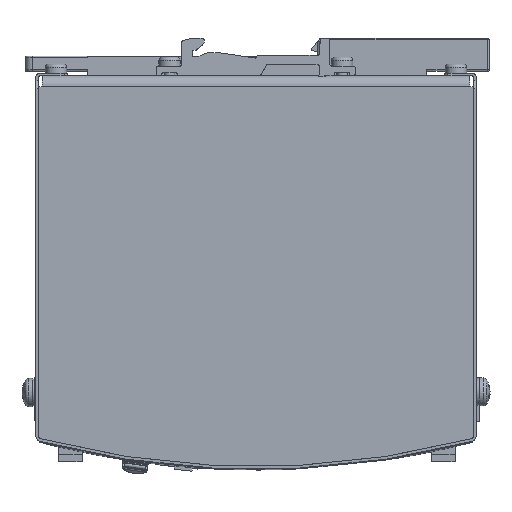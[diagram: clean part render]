
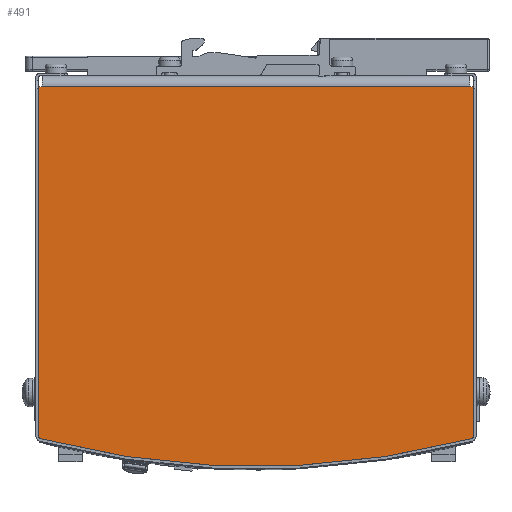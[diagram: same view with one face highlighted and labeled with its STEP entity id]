
A CAD part, left-side view. The second image highlights one B-rep face of the part: STEP entity #491.
In plain terms, the highlighted planar face has unit normal (-1, 0, 0) as drawn and (0, 1, 0) by its records, which use the part's own axes.
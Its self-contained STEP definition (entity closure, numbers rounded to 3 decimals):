
#112=CARTESIAN_POINT('',(102.177,31.0,60.777));
#113=VERTEX_POINT('',#112);
#114=CARTESIAN_POINT('',(101.693,31.0,61.15));
#115=VERTEX_POINT('',#114);
#116=CARTESIAN_POINT('',(101.693,31.0,60.65));
#117=DIRECTION('',(0.0,-1.0,0.0));
#118=DIRECTION('',(0.611,0.0,0.792));
#119=AXIS2_PLACEMENT_3D('',#116,#117,#118);
#120=CIRCLE('',#119,0.5);
#121=EDGE_CURVE('',#113,#115,#120,.T.);
#164=CARTESIAN_POINT('',(102.177,31.0,-60.777));
#165=VERTEX_POINT('',#164);
#172=CARTESIAN_POINT('',(-130.,31.0,0.));
#173=DIRECTION('',(0.0,1.0,0.0));
#174=DIRECTION('',(-0.967,0.0,-0.255));
#175=AXIS2_PLACEMENT_3D('',#172,#173,#174);
#176=CIRCLE('',#175,240.);
#177=EDGE_CURVE('',#113,#165,#176,.T.);
#408=CARTESIAN_POINT('',(101.693,31.0,-61.15));
#409=VERTEX_POINT('',#408);
#416=CARTESIAN_POINT('',(101.693,31.0,-60.65));
#417=DIRECTION('',(0.0,-1.,0.0));
#418=DIRECTION('',(0.611,0.0,-0.792));
#419=AXIS2_PLACEMENT_3D('',#416,#417,#418);
#420=CIRCLE('',#419,0.5);
#421=EDGE_CURVE('',#409,#165,#420,.T.);
#427=CARTESIAN_POINT('',(0.,31.0,-61.15));
#428=DIRECTION('',(0.0,1.0,0.0));
#429=DIRECTION('',(0.0,0.0,1.0));
#430=AXIS2_PLACEMENT_3D('',#427,#428,#429);
#431=PLANE('',#430);
#432=ORIENTED_EDGE('',*,*,#121,.F.);
#433=ORIENTED_EDGE('',*,*,#177,.T.);
#434=ORIENTED_EDGE('',*,*,#421,.F.);
#435=CARTESIAN_POINT('',(3.1,31.,-61.15));
#436=VERTEX_POINT('',#435);
#437=CARTESIAN_POINT('',(3.1,31.0,-61.15));
#438=DIRECTION('',(1.0,0.0,0.0));
#439=VECTOR('',#438,98.593);
#440=LINE('',#437,#439);
#441=EDGE_CURVE('',#436,#409,#440,.T.);
#442=ORIENTED_EDGE('',*,*,#441,.F.);
#443=CARTESIAN_POINT('',(3.1,31.,-60.15));
#444=VERTEX_POINT('',#443);
#445=CARTESIAN_POINT('',(3.1,31.0,-61.15));
#446=DIRECTION('',(0.0,0.0,1.0));
#447=VECTOR('',#446,1.0);
#448=LINE('',#445,#447);
#449=EDGE_CURVE('',#436,#444,#448,.T.);
#450=ORIENTED_EDGE('',*,*,#449,.T.);
#451=CARTESIAN_POINT('',(3.,31.0,-60.15));
#452=VERTEX_POINT('',#451);
#453=CARTESIAN_POINT('',(3.1,31.0,-60.15));
#454=DIRECTION('',(-1.0,0.0,0.0));
#455=VECTOR('',#454,0.1);
#456=LINE('',#453,#455);
#457=EDGE_CURVE('',#444,#452,#456,.T.);
#458=ORIENTED_EDGE('',*,*,#457,.T.);
#459=CARTESIAN_POINT('',(3.,31.,60.15));
#460=VERTEX_POINT('',#459);
#461=CARTESIAN_POINT('',(3.,31.0,-60.15));
#462=DIRECTION('',(0.0,0.0,1.0));
#463=VECTOR('',#462,120.3);
#464=LINE('',#461,#463);
#465=EDGE_CURVE('',#452,#460,#464,.T.);
#466=ORIENTED_EDGE('',*,*,#465,.T.);
#467=CARTESIAN_POINT('',(3.1,31.,60.15));
#468=VERTEX_POINT('',#467);
#469=CARTESIAN_POINT('',(3.,31.0,60.15));
#470=DIRECTION('',(1.0,0.0,0.0));
#471=VECTOR('',#470,0.1);
#472=LINE('',#469,#471);
#473=EDGE_CURVE('',#460,#468,#472,.T.);
#474=ORIENTED_EDGE('',*,*,#473,.T.);
#475=CARTESIAN_POINT('',(3.1,31.,61.15));
#476=VERTEX_POINT('',#475);
#477=CARTESIAN_POINT('',(3.1,31.0,60.15));
#478=DIRECTION('',(0.0,0.0,1.0));
#479=VECTOR('',#478,1.0);
#480=LINE('',#477,#479);
#481=EDGE_CURVE('',#468,#476,#480,.T.);
#482=ORIENTED_EDGE('',*,*,#481,.T.);
#483=CARTESIAN_POINT('',(3.1,31.0,61.15));
#484=DIRECTION('',(1.0,0.0,0.0));
#485=VECTOR('',#484,98.593);
#486=LINE('',#483,#485);
#487=EDGE_CURVE('',#476,#115,#486,.T.);
#488=ORIENTED_EDGE('',*,*,#487,.T.);
#489=EDGE_LOOP('',(#432,#433,#434,#442,#450,#458,#466,#474,#482,#488));
#490=FACE_OUTER_BOUND('',#489,.T.);
#491=ADVANCED_FACE('',(#490),#431,.T.);
